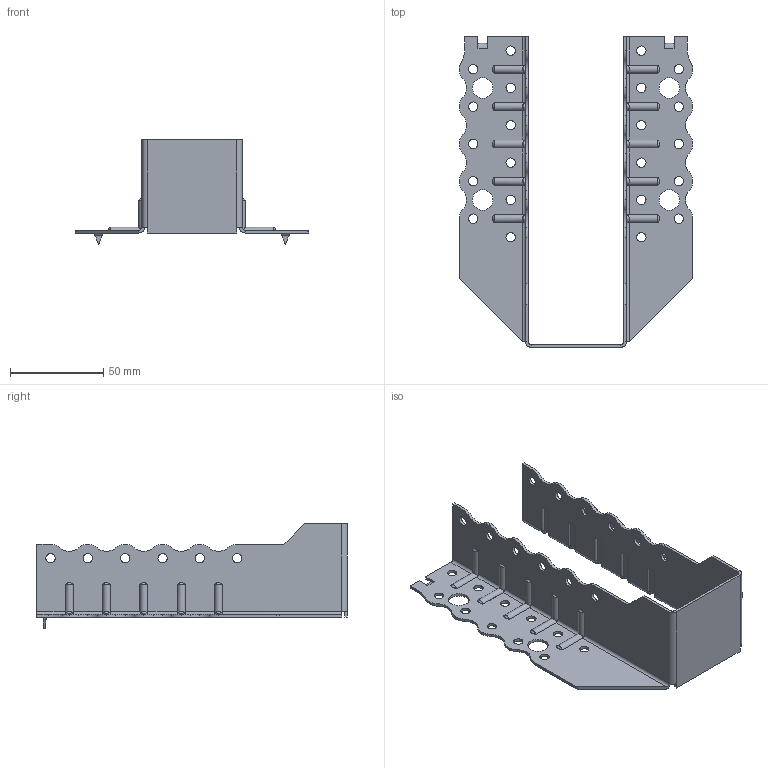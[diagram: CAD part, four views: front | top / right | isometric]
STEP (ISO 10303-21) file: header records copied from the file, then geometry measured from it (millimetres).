
FILE_DESCRIPTION (( 'STEP AP203' ), '1' );
FILE_NAME ('30615TOPK.STEP', '2021-04-08T14:37:25', ( '' ), ( '' ), 'SwSTEP 2.0', 'SolidWorks 2013', '' );
FILE_SCHEMA (( 'CONFIG_CONTROL_DESIGN' ));
Length unit declared in the file: millimetre
Products named in the file (1): 30615TOPK
Bounding box: 125 x 166.5 x 56 mm (x, y, z)
Volume: 36672 mm3; surface area: 52254.9 mm2
Topology: 1 solids, 1 shells, 426 faces, 1148 edges, 724 vertices
Faces by surface type: cylinder 267, plane 119, torus 20, bspline 20
Entity records: 15806 total; most frequent: CARTESIAN_POINT 4995, ORIENTED_EDGE 2296, DIRECTION 2214, EDGE_CURVE 1148, AXIS2_PLACEMENT_3D 807, VERTEX_POINT 724, VECTOR 600, LINE 600
